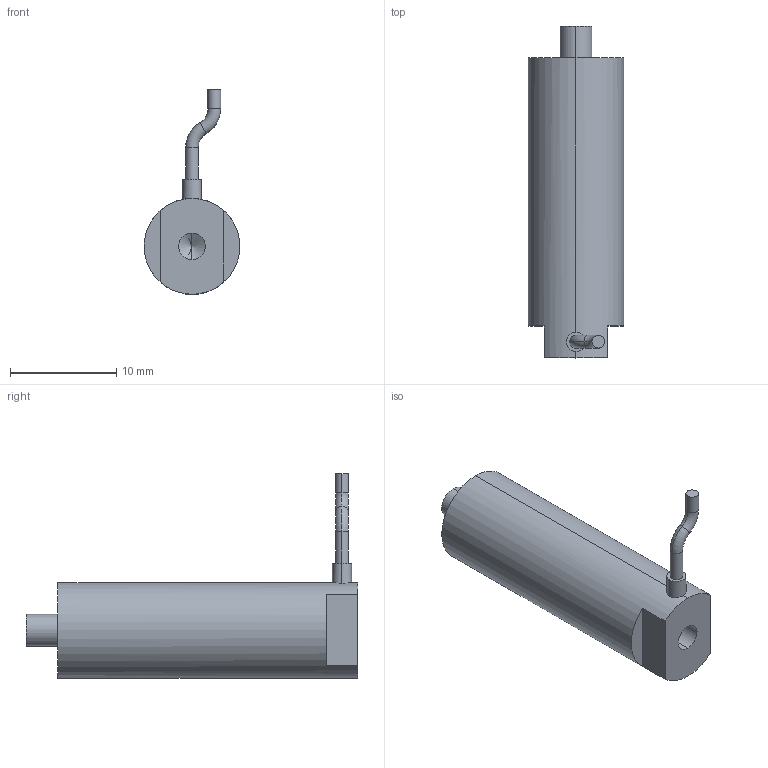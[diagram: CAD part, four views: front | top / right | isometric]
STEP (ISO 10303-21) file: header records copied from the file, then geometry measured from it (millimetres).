
FILE_DESCRIPTION (( 'STEP AP203' ), '1' );
FILE_NAME ('20VS9ﾍﾆｸﾋﾄﾚﾂﾝﾎﾆ.STEP', '2021-07-07T07:57:51', ( 'ﾎ｢ﾈ橆ﾃｻｧ' ), ( 'ﾎ｢ﾈ晥ｫﾋｾ' ), 'SwSTEP 2.0', 'SolidWorks 2016', '' );
FILE_SCHEMA (( 'CONFIG_CONTROL_DESIGN' ));
Length unit declared in the file: millimetre
Products named in the file (1): 20VS9芢裝囀蹟恇
Bounding box: 9 x 31.2 x 19.25 mm (x, y, z)
Volume: 1751.5 mm3; surface area: 1059.7 mm2
Topology: 1 solids, 1 shells, 914 faces, 2460 edges, 1634 vertices
Faces by surface type: bspline 509, plane 293, cylinder 104, torus 4, cone 4
Entity records: 43055 total; most frequent: CARTESIAN_POINT 24650, ORIENTED_EDGE 4912, EDGE_CURVE 2456, DIRECTION 1844, B_SPLINE_CURVE_WITH_KNOTS 1676, VERTEX_POINT 1634, EDGE_LOOP 1004, ADVANCED_FACE 914
